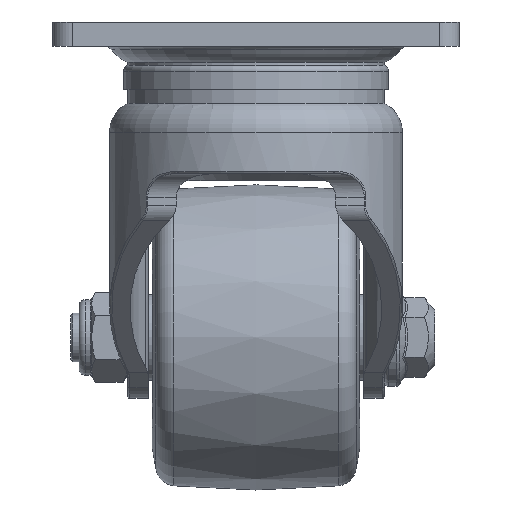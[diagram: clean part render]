
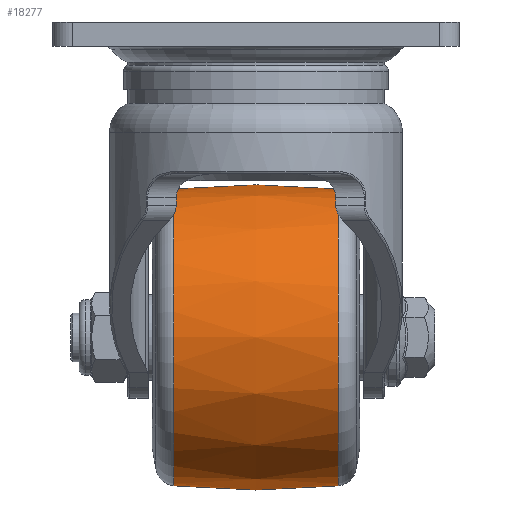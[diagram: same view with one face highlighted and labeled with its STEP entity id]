
A CAD part, left-side view. The second image highlights one B-rep face of the part: STEP entity #18277.
In plain terms, the highlighted free-form (B-spline) face has degree [2, 2] with [3, 9] control points.
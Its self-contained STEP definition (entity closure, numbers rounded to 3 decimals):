
#14=(
BOUNDED_SURFACE()
B_SPLINE_SURFACE(2,2,((#31055,#31056,#31057,#31058,#31059,#31060,#31061,
#31062,#31063),(#31064,#31065,#31066,#31067,#31068,#31069,#31070,#31071,
#31072),(#31073,#31074,#31075,#31076,#31077,#31078,#31079,#31080,#31081)),
 .UNSPECIFIED.,.F.,.T.,.F.)
B_SPLINE_SURFACE_WITH_KNOTS((3,3),(3,2,2,2,3),(-0.101,0.101),
(-3.142,-1.571,0.,1.571,3.142),
 .UNSPECIFIED.)
GEOMETRIC_REPRESENTATION_ITEM()
RATIONAL_B_SPLINE_SURFACE(((1.,0.707,1.,0.707,1.,
0.707,1.,0.707,1.),(0.995,0.703,
0.995,0.703,0.995,0.703,
0.995,0.703,0.995),(1.,0.707,
1.,0.707,1.,0.707,1.,0.707,1.)))
REPRESENTATION_ITEM('')
SURFACE()
);
#64=(
BOUNDED_CURVE()
B_SPLINE_CURVE(2,(#31083,#31084,#31085),.UNSPECIFIED.,.F.,.F.)
B_SPLINE_CURVE_WITH_KNOTS((3,3),(-0.101,0.101),
 .UNSPECIFIED.)
CURVE()
GEOMETRIC_REPRESENTATION_ITEM()
RATIONAL_B_SPLINE_CURVE((1.,0.995,1.))
REPRESENTATION_ITEM('')
);
#7228=FACE_OUTER_BOUND('',#8213,.T.);
#8213=EDGE_LOOP('',(#17318,#17319,#17320,#17321,#17322,#17323));
#8357=CIRCLE('',#19325,36.478);
#8358=CIRCLE('',#19326,36.478);
#8359=CIRCLE('',#19327,36.478);
#8360=CIRCLE('',#19328,36.478);
#9990=VERTEX_POINT('',#31051);
#9991=VERTEX_POINT('',#31052);
#9992=VERTEX_POINT('',#31082);
#9993=VERTEX_POINT('',#31086);
#12434=EDGE_CURVE('',#9990,#9991,#8357,.T.);
#12435=EDGE_CURVE('',#9991,#9990,#8358,.T.);
#12436=EDGE_CURVE('',#9991,#9992,#64,.T.);
#12437=EDGE_CURVE('',#9993,#9992,#8359,.T.);
#12438=EDGE_CURVE('',#9992,#9993,#8360,.T.);
#17318=ORIENTED_EDGE('',*,*,#12434,.T.);
#17319=ORIENTED_EDGE('',*,*,#12436,.T.);
#17320=ORIENTED_EDGE('',*,*,#12437,.F.);
#17321=ORIENTED_EDGE('',*,*,#12438,.F.);
#17322=ORIENTED_EDGE('',*,*,#12436,.F.);
#17323=ORIENTED_EDGE('',*,*,#12435,.T.);
#18277=ADVANCED_FACE('',(#7228),#14,.F.);
#19325=AXIS2_PLACEMENT_3D('',#31053,#23576,#23577);
#19326=AXIS2_PLACEMENT_3D('',#31054,#23578,#23579);
#19327=AXIS2_PLACEMENT_3D('',#31087,#23580,#23581);
#19328=AXIS2_PLACEMENT_3D('',#31088,#23582,#23583);
#23576=DIRECTION('center_axis',(0.,1.,0.));
#23577=DIRECTION('ref_axis',(0.,0.,
1.));
#23578=DIRECTION('center_axis',(0.,1.,0.));
#23579=DIRECTION('ref_axis',(0.,0.,
1.));
#23580=DIRECTION('center_axis',(0.,1.,0.));
#23581=DIRECTION('ref_axis',(0.,0.,
1.));
#23582=DIRECTION('center_axis',(0.,1.,0.));
#23583=DIRECTION('ref_axis',(0.,0.,
1.));
#31051=CARTESIAN_POINT('',(-1.478,-20.191,-77.54));
#31052=CARTESIAN_POINT('',(35.,-20.191,-114.018));
#31053=CARTESIAN_POINT('Origin',(35.,-20.191,-77.54));
#31054=CARTESIAN_POINT('Origin',(35.,-20.191,-77.54));
#31055=CARTESIAN_POINT('Ctrl Pts',(35.,-20.191,-114.018));
#31056=CARTESIAN_POINT('Ctrl Pts',(-1.478,-20.191,
-114.018));
#31057=CARTESIAN_POINT('Ctrl Pts',(-1.478,-20.191,-77.54));
#31058=CARTESIAN_POINT('Ctrl Pts',(-1.478,-20.191,
-41.062));
#31059=CARTESIAN_POINT('Ctrl Pts',(35.,-20.191,-41.062));
#31060=CARTESIAN_POINT('Ctrl Pts',(71.478,-20.191,-41.062));
#31061=CARTESIAN_POINT('Ctrl Pts',(71.478,-20.191,-77.54));
#31062=CARTESIAN_POINT('Ctrl Pts',(71.478,-20.191,-114.018));
#31063=CARTESIAN_POINT('Ctrl Pts',(35.,-20.191,-114.018));
#31064=CARTESIAN_POINT('Ctrl Pts',(35.,0.,
-116.067));
#31065=CARTESIAN_POINT('Ctrl Pts',(-3.527,0.,
-116.067));
#31066=CARTESIAN_POINT('Ctrl Pts',(-3.527,0.,
-77.54));
#31067=CARTESIAN_POINT('Ctrl Pts',(-3.527,0.,
-39.013));
#31068=CARTESIAN_POINT('Ctrl Pts',(35.,0.,
-39.013));
#31069=CARTESIAN_POINT('Ctrl Pts',(73.527,0.,
-39.013));
#31070=CARTESIAN_POINT('Ctrl Pts',(73.527,0.,
-77.54));
#31071=CARTESIAN_POINT('Ctrl Pts',(73.527,0.,
-116.067));
#31072=CARTESIAN_POINT('Ctrl Pts',(35.,0.,
-116.067));
#31073=CARTESIAN_POINT('Ctrl Pts',(35.,20.191,-114.018));
#31074=CARTESIAN_POINT('Ctrl Pts',(-1.478,20.191,-114.018));
#31075=CARTESIAN_POINT('Ctrl Pts',(-1.478,20.191,-77.54));
#31076=CARTESIAN_POINT('Ctrl Pts',(-1.478,20.191,-41.062));
#31077=CARTESIAN_POINT('Ctrl Pts',(35.,20.191,-41.062));
#31078=CARTESIAN_POINT('Ctrl Pts',(71.478,20.191,-41.062));
#31079=CARTESIAN_POINT('Ctrl Pts',(71.478,20.191,-77.54));
#31080=CARTESIAN_POINT('Ctrl Pts',(71.478,20.191,-114.018));
#31081=CARTESIAN_POINT('Ctrl Pts',(35.,20.191,-114.018));
#31082=CARTESIAN_POINT('',(35.,20.191,-114.018));
#31083=CARTESIAN_POINT('Ctrl Pts',(35.,-20.191,-114.018));
#31084=CARTESIAN_POINT('Ctrl Pts',(35.,0.,
-116.067));
#31085=CARTESIAN_POINT('Ctrl Pts',(35.,20.191,-114.018));
#31086=CARTESIAN_POINT('',(-1.478,20.191,-77.54));
#31087=CARTESIAN_POINT('Origin',(35.,20.191,-77.54));
#31088=CARTESIAN_POINT('Origin',(35.,20.191,-77.54));
